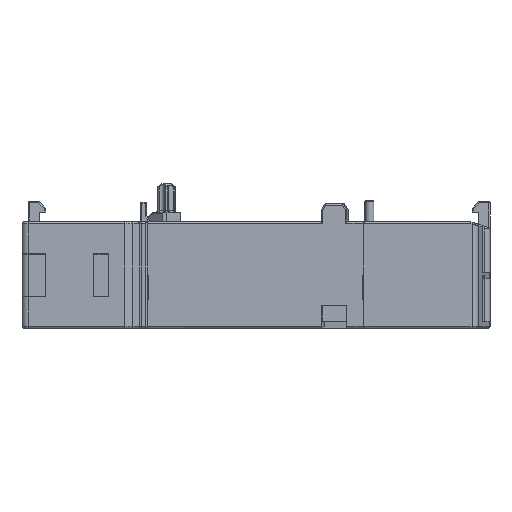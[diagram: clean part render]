
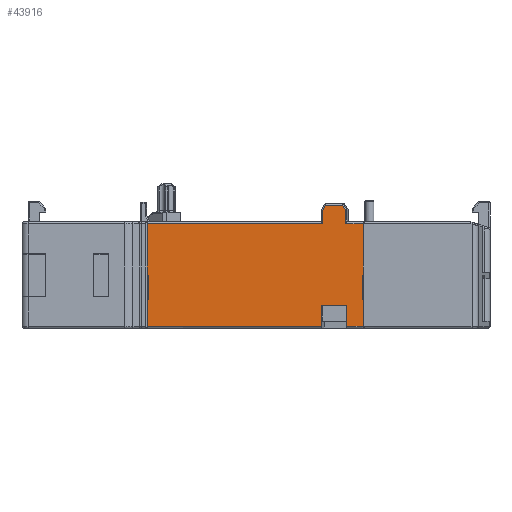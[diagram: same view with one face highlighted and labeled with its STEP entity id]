
A CAD part, front view. The second image highlights one B-rep face of the part: STEP entity #43916.
In plain terms, the highlighted planar face has unit normal (0, -1, 0).
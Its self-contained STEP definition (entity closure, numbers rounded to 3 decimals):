
#1945=DIRECTION('',(0.,0.,1.));
#1946=VECTOR('',#1945,4.55);
#1947=CARTESIAN_POINT('',(9.8,-46.,0.3));
#1948=LINE('',#1947,#1946);
#1957=DIRECTION('',(-1.,0.,0.));
#1958=VECTOR('',#1957,0.1);
#1959=CARTESIAN_POINT('',(9.8,-46.,8.85));
#1960=LINE('',#1959,#1958);
#1981=DIRECTION('',(1.,0.,0.));
#1982=VECTOR('',#1981,0.2);
#1983=CARTESIAN_POINT('',(-26.2,-46.,4.85));
#1984=LINE('',#1983,#1982);
#1985=DIRECTION('',(0.,0.,-1.));
#1986=VECTOR('',#1985,8.55);
#1987=CARTESIAN_POINT('',(-26.2,-46.,17.4));
#1988=LINE('',#1987,#1986);
#1989=DIRECTION('',(1.,0.,0.));
#1990=VECTOR('',#1989,29.192);
#1991=CARTESIAN_POINT('',(-26.2,-46.,17.4));
#1992=LINE('',#1991,#1990);
#1993=DIRECTION('',(-0.506,0.,-0.863));
#1994=VECTOR('',#1993,0.989);
#1995=CARTESIAN_POINT('',(3.493,-46.,20.5));
#1996=LINE('',#1995,#1994);
#1997=DIRECTION('',(1.,0.,0.));
#1998=VECTOR('',#1997,2.858);
#1999=CARTESIAN_POINT('',(3.493,-46.,20.5));
#2000=LINE('',#1999,#1998);
#2001=DIRECTION('',(-0.506,0.,0.863));
#2002=VECTOR('',#2001,0.989);
#2003=CARTESIAN_POINT('',(6.851,-46.,19.646));
#2004=LINE('',#2003,#2002);
#2005=DIRECTION('',(1.,0.,0.));
#2006=VECTOR('',#2005,2.949);
#2007=CARTESIAN_POINT('',(6.851,-46.,17.4));
#2008=LINE('',#2007,#2006);
#2009=DIRECTION('',(0.,0.,-1.));
#2010=VECTOR('',#2009,8.55);
#2011=CARTESIAN_POINT('',(9.8,-46.,17.4));
#2012=LINE('',#2011,#2010);
#2013=DIRECTION('',(0.,0.,-1.));
#2014=VECTOR('',#2013,4.);
#2015=CARTESIAN_POINT('',(9.7,-46.,8.85));
#2016=LINE('',#2015,#2014);
#2017=DIRECTION('',(1.,0.,0.));
#2018=VECTOR('',#2017,0.1);
#2019=CARTESIAN_POINT('',(9.7,-46.,4.85));
#2020=LINE('',#2019,#2018);
#2021=DIRECTION('',(-1.,0.,0.));
#2022=VECTOR('',#2021,2.832);
#2023=CARTESIAN_POINT('',(9.8,-46.,0.3));
#2024=LINE('',#2023,#2022);
#2025=DIRECTION('',(0.,0.,1.));
#2026=VECTOR('',#2025,3.5);
#2027=CARTESIAN_POINT('',(6.968,-46.,0.3));
#2028=LINE('',#2027,#2026);
#2029=DIRECTION('',(-1.,0.,0.));
#2030=VECTOR('',#2029,4.163);
#2031=CARTESIAN_POINT('',(6.968,-46.,3.8));
#2032=LINE('',#2031,#2030);
#2033=DIRECTION('',(0.,0.,1.));
#2034=VECTOR('',#2033,3.5);
#2035=CARTESIAN_POINT('',(2.805,-46.,0.3));
#2036=LINE('',#2035,#2034);
#2037=DIRECTION('',(-1.,0.,0.));
#2038=VECTOR('',#2037,29.005);
#2039=CARTESIAN_POINT('',(2.805,-46.,0.3));
#2040=LINE('',#2039,#2038);
#2041=DIRECTION('',(0.,0.,1.));
#2042=VECTOR('',#2041,4.55);
#2043=CARTESIAN_POINT('',(-26.2,-46.,0.3));
#2044=LINE('',#2043,#2042);
#2057=DIRECTION('',(0.,0.,-1.));
#2058=VECTOR('',#2057,4.);
#2059=CARTESIAN_POINT('',(-26.,-46.,8.85));
#2060=LINE('',#2059,#2058);
#2069=DIRECTION('',(-1.,0.,0.));
#2070=VECTOR('',#2069,0.2);
#2071=CARTESIAN_POINT('',(-26.,-46.,8.85));
#2072=LINE('',#2071,#2070);
#3170=CARTESIAN_POINT('',(2.805,-46.,0.3));
#3212=CARTESIAN_POINT('',(6.968,-46.,0.3));
#8274=DIRECTION('',(0.,0.,-1.));
#8275=VECTOR('',#8274,2.246);
#8276=CARTESIAN_POINT('',(2.992,-46.,19.646));
#8277=LINE('',#8276,#8275);
#23507=DIRECTION('',(0.,0.,1.));
#23508=VECTOR('',#23507,2.246);
#23509=CARTESIAN_POINT('',(6.851,-46.,17.4));
#23510=LINE('',#23509,#23508);
#33714=CARTESIAN_POINT('',(6.968,-46.,3.8));
#33715=CARTESIAN_POINT('',(2.805,-46.,3.8));
#33716=VERTEX_POINT('',#33714);
#33717=VERTEX_POINT('',#33715);
#35000=CARTESIAN_POINT('',(9.8,-46.,0.3));
#35001=VERTEX_POINT('',#35000);
#35003=VERTEX_POINT('',#3212);
#35004=VERTEX_POINT('',#3170);
#35008=CARTESIAN_POINT('',(-26.2,-46.,0.3));
#35009=VERTEX_POINT('',#35008);
#35090=CARTESIAN_POINT('',(9.8,-46.,4.85));
#35091=VERTEX_POINT('',#35090);
#35092=CARTESIAN_POINT('',(-26.2,-46.,4.85));
#35093=VERTEX_POINT('',#35092);
#40053=CARTESIAN_POINT('',(3.493,-46.,20.5));
#40054=CARTESIAN_POINT('',(6.351,-46.,20.5));
#40055=VERTEX_POINT('',#40053);
#40056=VERTEX_POINT('',#40054);
#40061=CARTESIAN_POINT('',(6.851,-46.,19.646));
#40062=VERTEX_POINT('',#40061);
#40083=CARTESIAN_POINT('',(2.992,-46.,19.646));
#40084=VERTEX_POINT('',#40083);
#41127=CARTESIAN_POINT('',(-26.2,-46.,17.4));
#41128=VERTEX_POINT('',#41127);
#41129=CARTESIAN_POINT('',(2.992,-46.,17.4));
#41130=VERTEX_POINT('',#41129);
#41137=CARTESIAN_POINT('',(6.851,-46.,17.4));
#41138=CARTESIAN_POINT('',(9.8,-46.,17.4));
#41139=VERTEX_POINT('',#41137);
#41140=VERTEX_POINT('',#41138);
#41232=CARTESIAN_POINT('',(9.8,-46.,8.85));
#41234=VERTEX_POINT('',#41232);
#41341=CARTESIAN_POINT('',(-26.2,-46.,8.85));
#41343=VERTEX_POINT('',#41341);
#41397=CARTESIAN_POINT('',(9.7,-46.,4.85));
#41399=VERTEX_POINT('',#41397);
#41401=CARTESIAN_POINT('',(-26.,-46.,4.85));
#41403=VERTEX_POINT('',#41401);
#41665=CARTESIAN_POINT('',(9.7,-46.,8.85));
#41666=VERTEX_POINT('',#41665);
#41667=CARTESIAN_POINT('',(-26.,-46.,8.85));
#41668=VERTEX_POINT('',#41667);
#43870=CARTESIAN_POINT('',(-27.2,-46.,1.15));
#43871=DIRECTION('',(0.,-1.,0.));
#43872=DIRECTION('',(1.,0.,0.));
#43873=AXIS2_PLACEMENT_3D('',#43870,#43871,#43872);
#43874=PLANE('',#43873);
#43876=ORIENTED_EDGE('',*,*,#43875,.T.);
#43878=ORIENTED_EDGE('',*,*,#43877,.F.);
#43880=ORIENTED_EDGE('',*,*,#43879,.T.);
#43882=ORIENTED_EDGE('',*,*,#43881,.F.);
#43884=ORIENTED_EDGE('',*,*,#43883,.T.);
#43886=ORIENTED_EDGE('',*,*,#43885,.F.);
#43888=ORIENTED_EDGE('',*,*,#43887,.F.);
#43890=ORIENTED_EDGE('',*,*,#43889,.T.);
#43892=ORIENTED_EDGE('',*,*,#43891,.F.);
#43894=ORIENTED_EDGE('',*,*,#43893,.F.);
#43896=ORIENTED_EDGE('',*,*,#43895,.T.);
#43897=ORIENTED_EDGE('',*,*,#43798,.T.);
#43898=ORIENTED_EDGE('',*,*,#43824,.T.);
#43899=ORIENTED_EDGE('',*,*,#43863,.T.);
#43900=ORIENTED_EDGE('',*,*,#43852,.T.);
#43901=ORIENTED_EDGE('',*,*,#43805,.F.);
#43903=ORIENTED_EDGE('',*,*,#43902,.T.);
#43905=ORIENTED_EDGE('',*,*,#43904,.T.);
#43907=ORIENTED_EDGE('',*,*,#43906,.T.);
#43909=ORIENTED_EDGE('',*,*,#43908,.F.);
#43911=ORIENTED_EDGE('',*,*,#43910,.T.);
#43913=ORIENTED_EDGE('',*,*,#43912,.T.);
#43914=EDGE_LOOP('',(#43876,#43878,#43880,#43882,#43884,#43886,#43888,#43890,
#43892,#43894,#43896,#43897,#43898,#43899,#43900,#43901,#43903,#43905,#43907,
#43909,#43911,#43913));
#43915=FACE_OUTER_BOUND('',#43914,.F.);
#43916=ADVANCED_FACE('',(#43915),#43874,.T.);
#43798=EDGE_CURVE('',#41140,#41234,#2012,.T.);
#43805=EDGE_CURVE('',#35001,#35091,#1948,.T.);
#43824=EDGE_CURVE('',#41234,#41666,#1960,.T.);
#43852=EDGE_CURVE('',#41399,#35091,#2020,.T.);
#43863=EDGE_CURVE('',#41666,#41399,#2016,.T.);
#43875=EDGE_CURVE('',#35093,#41403,#1984,.T.);
#43877=EDGE_CURVE('',#41668,#41403,#2060,.T.);
#43879=EDGE_CURVE('',#41668,#41343,#2072,.T.);
#43881=EDGE_CURVE('',#41128,#41343,#1988,.T.);
#43883=EDGE_CURVE('',#41128,#41130,#1992,.T.);
#43885=EDGE_CURVE('',#40084,#41130,#8277,.T.);
#43887=EDGE_CURVE('',#40055,#40084,#1996,.T.);
#43889=EDGE_CURVE('',#40055,#40056,#2000,.T.);
#43891=EDGE_CURVE('',#40062,#40056,#2004,.T.);
#43893=EDGE_CURVE('',#41139,#40062,#23510,.T.);
#43895=EDGE_CURVE('',#41139,#41140,#2008,.T.);
#43902=EDGE_CURVE('',#35001,#35003,#2024,.T.);
#43904=EDGE_CURVE('',#35003,#33716,#2028,.T.);
#43906=EDGE_CURVE('',#33716,#33717,#2032,.T.);
#43908=EDGE_CURVE('',#35004,#33717,#2036,.T.);
#43910=EDGE_CURVE('',#35004,#35009,#2040,.T.);
#43912=EDGE_CURVE('',#35009,#35093,#2044,.T.);
